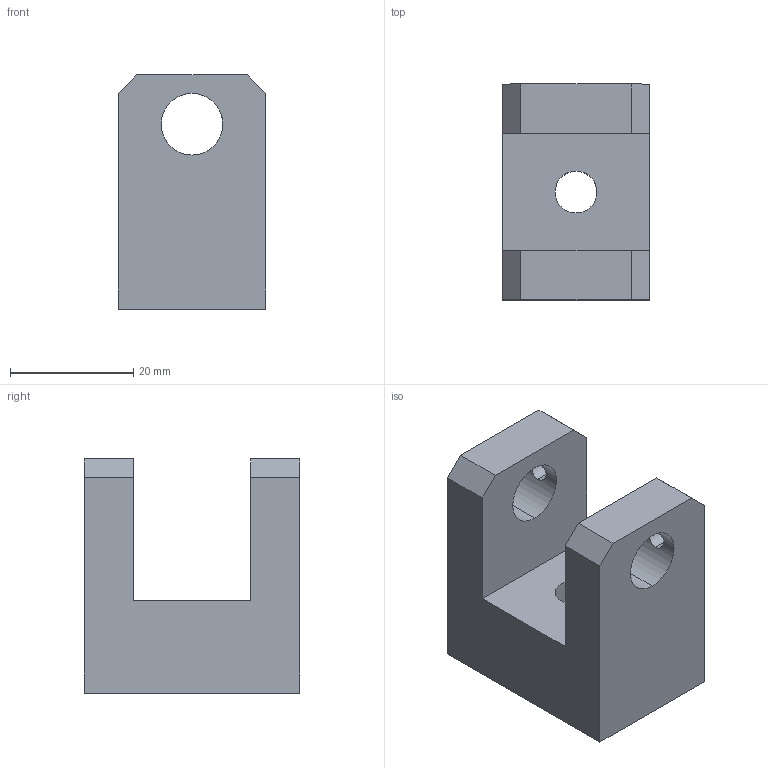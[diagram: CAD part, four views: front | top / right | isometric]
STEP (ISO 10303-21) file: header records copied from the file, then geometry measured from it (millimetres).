
FILE_DESCRIPTION (( 'STEP AP203' ), '1' );
FILE_NAME ('WL-JC-10-14(蟀諉輸).step', '2026-06-30T04:11:10', ( '' ), ( '' ), 'SwSTEP 2.0', 'SolidWorks 2024', '' );
FILE_SCHEMA (( 'CONFIG_CONTROL_DESIGN' ));
Length unit declared in the file: millimetre
Products named in the file (1): WL-JC-10-14(连接块)
Bounding box: 24 x 35 x 38 mm (x, y, z)
Volume: 19291.2 mm3; surface area: 6925.6 mm2
Topology: 1 solids, 1 shells, 26 faces, 73 edges, 48 vertices
Faces by surface type: plane 14, cylinder 12
Entity records: 1094 total; most frequent: CARTESIAN_POINT 314, ORIENTED_EDGE 146, DIRECTION 139, EDGE_CURVE 73, LINE 49, VECTOR 49, VERTEX_POINT 48, AXIS2_PLACEMENT_3D 45
